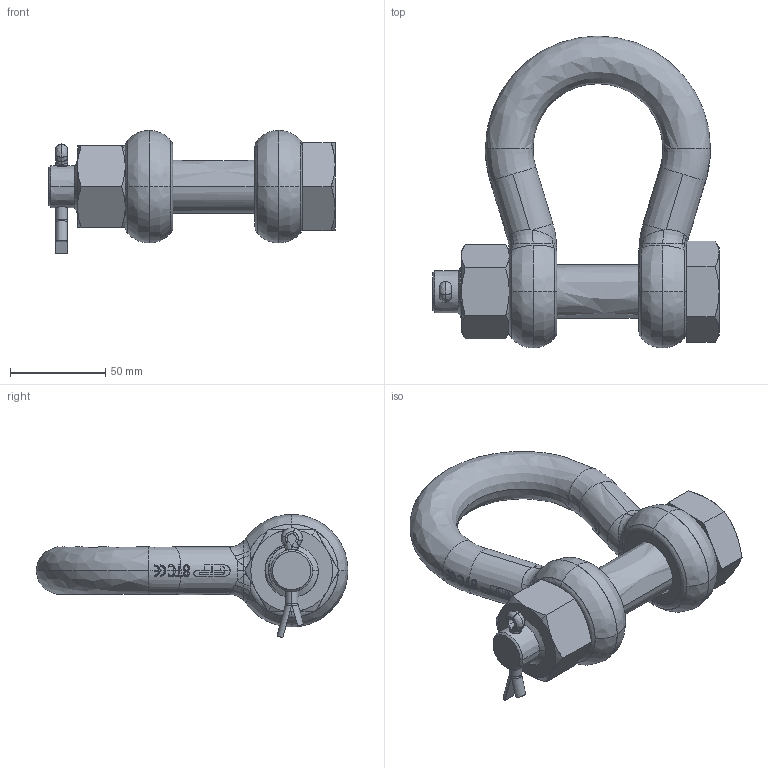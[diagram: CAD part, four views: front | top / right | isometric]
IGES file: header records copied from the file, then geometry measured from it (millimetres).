
Start section: START RECORD GO HERE.
Global section: file name: POGHMB25.igs; native system: Solidworks 2009                             ; preprocessor: Solidworks                 ; author: v.b.; organization: P4; date: 20090826.095201; units: millimetre
Bounding box: 150 x 163.5 x 64.55 mm (x, y, z)
Surface area: 67104.2 mm2 (no closed solid volume)
Topology: 0 solids, 0 shells, 742 faces, 4508 edges, 4500 vertices
Faces by surface type: bspline 335, plane 232, revolution 175
